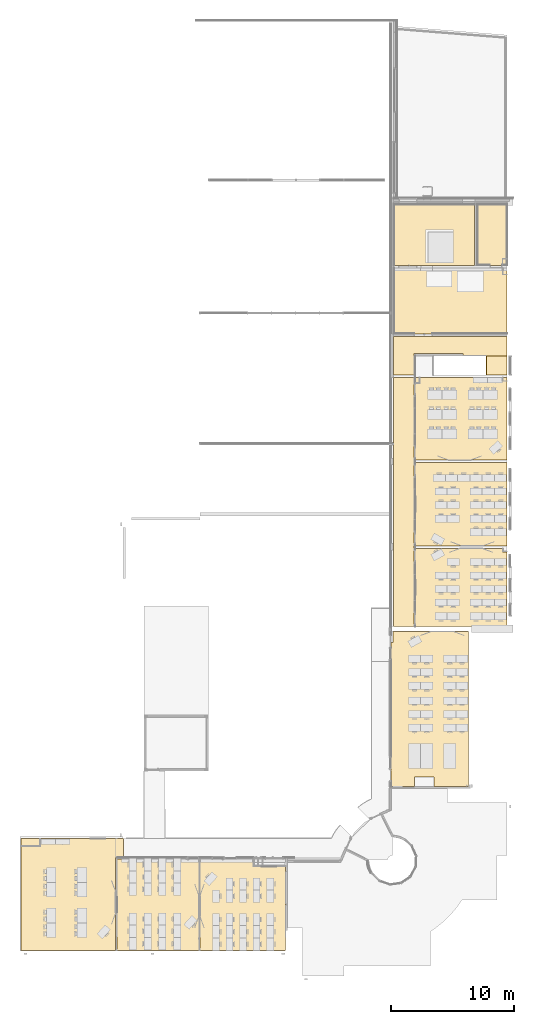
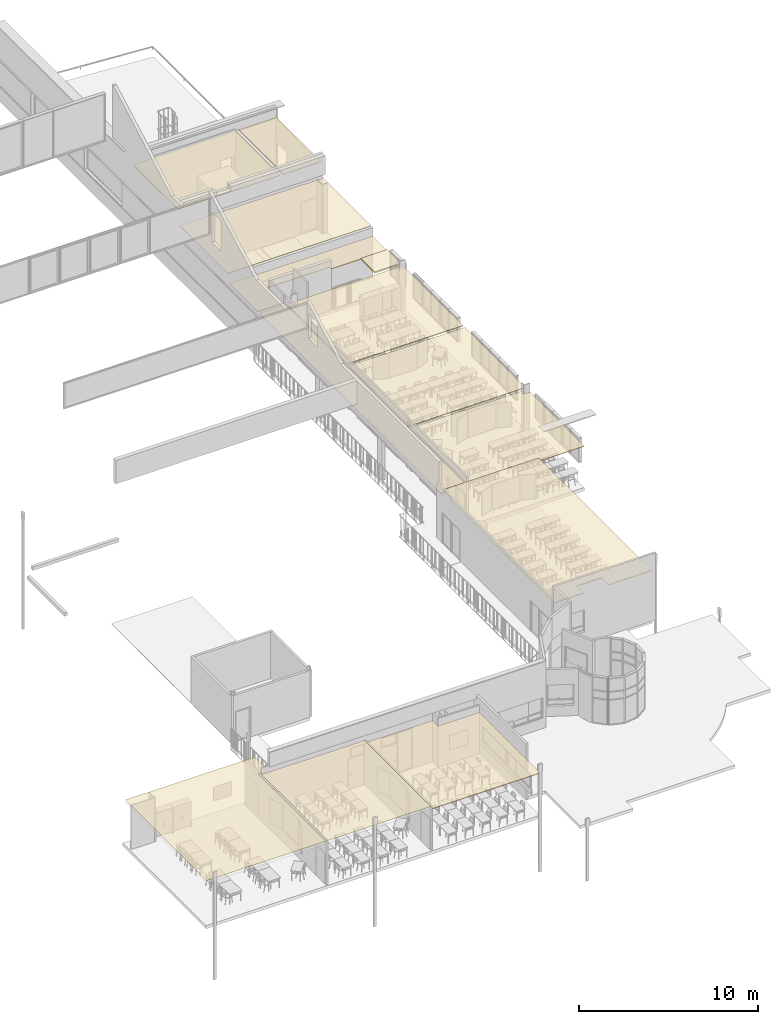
# One storey, part 41 of 44: 13 coverings.
"""IFC2X3 building model written with IfcOpenShell, lengths in centimetres."""

from ifc_helpers import new_model, entity, si_unit, converted_unit, derived_unit, direction, frame, frame_2d, origin, origin_2d_with_axis, place, context, subcontext, project, spatial, polyline, rectangle, outline, extrude, face_set, surface_model, material, layer, layer_set, layer_usage, element, save


model = new_model("IFC2X3")

# Units and contexts
model_context = context("Model", 3, precision=0.001, world=origin(), true_north=direction((6.12303176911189e-17, 1.0)))
body_context = subcontext(model_context, "Body", "Model", "MODEL_VIEW")
ifc_project = project(units=[si_unit("LENGTHUNIT", "METRE", prefix="CENTI"), si_unit("AREAUNIT", "SQUARE_METRE"), si_unit("VOLUMEUNIT", "CUBIC_METRE"), converted_unit("PLANEANGLEUNIT", "DEGREE", entity("IfcRatioMeasure", 0.0174532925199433), si_unit("PLANEANGLEUNIT", "RADIAN"), dimensions=[0, 0, 0, 0, 0, 0, 0]), si_unit("MASSUNIT", "GRAM", prefix="KILO"), si_unit("TIMEUNIT", "SECOND"), si_unit("FREQUENCYUNIT", "HERTZ"), si_unit("THERMODYNAMICTEMPERATUREUNIT", "DEGREE_CELSIUS"), derived_unit("THERMALTRANSMITTANCEUNIT", [(si_unit("MASSUNIT", "GRAM", prefix="KILO"), 1), (si_unit("THERMODYNAMICTEMPERATUREUNIT", "KELVIN"), -1), (si_unit("TIMEUNIT", "SECOND"), -3)]), derived_unit("VOLUMETRICFLOWRATEUNIT", [(si_unit("LENGTHUNIT", "METRE"), 3), (si_unit("TIMEUNIT", "SECOND"), -1)]), si_unit("ELECTRICCURRENTUNIT", "AMPERE"), si_unit("ELECTRICVOLTAGEUNIT", "VOLT"), si_unit("POWERUNIT", "WATT"), si_unit("FORCEUNIT", "NEWTON", prefix="KILO"), si_unit("ILLUMINANCEUNIT", "LUX"), si_unit("LUMINOUSFLUXUNIT", "LUMEN"), si_unit("LUMINOUSINTENSITYUNIT", "CANDELA"), derived_unit("USERDEFINED", [(si_unit("MASSUNIT", "GRAM", prefix="KILO"), -1), (si_unit("LENGTHUNIT", "METRE"), -2), (si_unit("TIMEUNIT", "SECOND"), 3), (si_unit("LUMINOUSFLUXUNIT", "LUMEN"), 1)]), derived_unit("LINEARVELOCITYUNIT", [(si_unit("LENGTHUNIT", "METRE"), 1), (si_unit("TIMEUNIT", "SECOND"), -1)]), si_unit("PRESSUREUNIT", "PASCAL"), derived_unit("USERDEFINED", [(si_unit("LENGTHUNIT", "METRE"), -2), (si_unit("MASSUNIT", "GRAM", prefix="KILO"), 1), (si_unit("TIMEUNIT", "SECOND"), -2)])], contexts=[model_context])

# Site, building, storey
site_placement = place(None, frame((8.62739174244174, -249.285249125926, 0.0)))
site = spatial("IfcSite", under=ifc_project, at=site_placement, Name="Default", CompositionType="ELEMENT")
building_placement = place(site_placement, origin())
building = spatial("IfcBuilding", under=site, at=building_placement, CompositionType="ELEMENT")
storey_placement = place(building_placement, frame((0.0, 0.0, 343.0)))
storey = spatial("IfcBuildingStorey", under=building, at=storey_placement, Name="R+1", CompositionType="ELEMENT", Elevation=343.0)

# Coverings
covering_1_placement = place(storey_placement, frame((22.0, 22.0, 300.0)))
element("IfcCovering", 1, at=covering_1_placement, inside=storey, Name="Plafond de base:Plafond 600 mm x 600 mm", ObjectType="Plafond de base:Plafond 600 mm x 600 mm", PredefinedType="CEILING", context=body_context, shape_type="SurfaceModel", body=[
    surface_model("IfcFaceBasedSurfaceModel", [(769.905471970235, 0.0, 0.0), (769.905471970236, 753.0, 0.0), (834.0, 753.0, 0.0), (834.0, 909.0, 0.0), (0.0, 909.0, 0.0), (0.0, 0.0, 0.0)], [face_set([[[0, 1, 2, 3, 4, 5]]])]),
])
covering_2_placement = place(storey_placement, frame((803.905471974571, 22.0, 300.0)))
element("IfcCovering", 2, at=covering_2_placement, inside=storey, Name="Plafond de base:Plafond 600 mm x 600 mm", ObjectType="Plafond de base:Plafond 600 mm x 600 mm", PredefinedType="CEILING", context=body_context, shape_type="SurfaceModel", body=[
    surface_model("IfcFaceBasedSurfaceModel", [(665.0, 0.0, 0.0), (665.0, 743.0, 0.0), (0.0, 743.0, 0.0), (0.0, 0.0, 0.0)], [face_set([[[0, 1, 2, 3]]])]),
])
ifc_material_1 = material(Name="Maçonnerie - Isolant_MU")
ifc_layer_1 = layer(ifc_material_1, 5.0)
ifc_layer_set_1 = layer_set([ifc_layer_1], Name="Plafond composé:Plafond avec isolation")
ifc_layer_usage_1 = layer_usage(ifc_layer_set_1, "AXIS3", "NEGATIVE", 0.0)
covering_3_placement = place(storey_placement, origin())
element("IfcCovering", 3, at=covering_3_placement, inside=storey, material=ifc_layer_usage_1, Name="Plafond composé:Plafond avec isolation", ObjectType="Plafond composé:Plafond avec isolation", PredefinedType="CEILING", context=body_context, shape_type="SweptSolid", body=[
    extrude(rectangle(XDim=749.00000000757, YDim=677.000000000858, at=frame_2d((0.0, -1.98951966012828e-13), x_axis=(1.0, 0.0))), frame((3604.40482780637, 3651.6851933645, 278.0), z_axis=(0.0, 0.0, 1.0), x_axis=(-1.0, 0.0, 0.0)), (0.0, 0.0, 1.0), 4.99999999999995),
])
ifc_layer_usage_2 = layer_usage(ifc_layer_set_1, "AXIS3", "NEGATIVE", 0.0)
covering_4_placement = place(storey_placement, origin())
element("IfcCovering", 4, at=covering_4_placement, inside=storey, material=ifc_layer_usage_2, Name="Plafond composé:Plafond avec isolation", ObjectType="Plafond composé:Plafond avec isolation", PredefinedType="CEILING", context=body_context, shape_type="SweptSolid", body=[
    extrude(rectangle(XDim=749.00000000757, YDim=672.795014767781, at=frame_2d((6.53699316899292e-13, -4.2632564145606e-13), x_axis=(1.0, 0.0))), frame((3604.40482780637, 4346.58270074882, 278.0), z_axis=(0.0, 0.0, 1.0), x_axis=(-1.0, 0.0, 0.0)), (0.0, 0.0, 1.0), 4.99999999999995),
])
ifc_material_2 = material(Name="Maçonnerie - Isolant")
ifc_layer_2 = layer(ifc_material_2, 3.0)
ifc_material_3 = material(Name="Faux-plafond-Trame 60x 60_MU")
ifc_layer_3 = layer(ifc_material_3, 2.0)
ifc_layer_set_2 = layer_set([ifc_layer_2, ifc_layer_3], Name="Plafond composé:Plafond 120x60")
ifc_layer_usage_3 = layer_usage(ifc_layer_set_2, "AXIS3", "NEGATIVE", 0.0)
covering_5_placement = place(storey_placement, origin())
element("IfcCovering", 5, at=covering_5_placement, inside=storey, material=ifc_layer_usage_3, Name="Plafond composé:Plafond 120x60", ObjectType="Plafond composé:Plafond 120x60", PredefinedType="CEILING", context=body_context, shape_type="SweptSolid", body=[
    extrude(outline(polyline([(-393.15105388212, -761.100157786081), (221.848946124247, -761.100157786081), (221.848946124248, -668.60015778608), (237.768679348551, -668.600157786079), (237.768679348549, 502.900236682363), (46.7667142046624, 502.900236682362), (46.7667142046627, 423.899842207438), (-113.233285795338, 423.899842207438), (-113.233285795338, 502.900236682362), (-393.151053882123, 502.900236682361), (-393.15105388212, -761.100157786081)])), frame((3269.75377392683, 1855.88005028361, 330.0), z_axis=(0.0, 0.0, 1.0), x_axis=(-1.0, 0.0, 0.0)), (0.0, 0.0, 1.0), 5.00000000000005),
])
ifc_layer_usage_4 = layer_usage(ifc_layer_set_1, "AXIS3", "NEGATIVE", 0.0)
covering_6_placement = place(storey_placement, origin())
element("IfcCovering", 6, at=covering_6_placement, inside=storey, material=ifc_layer_usage_4, Name="Plafond composé:Plafond avec isolation", ObjectType="Plafond composé:Plafond avec isolation", PredefinedType="CEILING", context=body_context, shape_type="SweptSolid", body=[
    extrude(outline(polyline([(252.087850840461, -227.857142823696), (282.087850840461, -227.857142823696), (282.087850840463, 482.14285713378), (-356.117134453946, 482.142857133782), (-356.117134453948, 25.1428571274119), (-356.11713445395, -266.857142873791), (252.087850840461, -266.857142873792), (252.087850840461, -227.857142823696)])), frame((3712.04768493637, 3011.09734252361, 278.0), z_axis=(0.0, 0.0, 1.0), x_axis=(0.0, 1.0, 0.0)), (0.0, 0.0, 1.0), 4.99999999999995),
])

# Space
space_1_placement = place(storey_placement, origin())
space_1 = spatial("IfcSpace", under=storey, at=space_1_placement, Name="121", CompositionType="ELEMENT", InteriorOrExteriorSpace="INTERNAL")

# Coverings
ifc_layer_usage_5 = layer_usage(ifc_layer_set_1, "AXIS3", "NEGATIVE", 0.0)
covering_7_placement = place(space_1_placement, origin())
element("IfcCovering", 7, at=covering_7_placement, inside=space_1, material=ifc_layer_usage_5, Name="Plafond composé:Plafond avec isolation", ObjectType="Plafond composé:Plafond avec isolation", PredefinedType="CEILING", context=body_context, shape_type="SweptSolid", body=[
    extrude(outline(polyline([(-432.282886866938, -274.856958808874), (-254.302678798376, -274.856958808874), (248.717113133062, -274.856958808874), (248.717113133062, -8.85695881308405), (310.717113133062, -8.85695881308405), (310.717113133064, 421.142397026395), (-432.282886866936, 421.142397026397), (-432.282886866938, -274.856958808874)])), frame((1900.04786900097, 454.282886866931, 277.0), z_axis=(0.0, 0.0, 1.0), x_axis=(0.0, 1.0, 0.0)), (0.0, 0.0, 1.0), 4.99999999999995),
])
ifc_layer_usage_6 = layer_usage(ifc_layer_set_1, "AXIS3", "NEGATIVE", 0.0)
covering_8_placement = place(storey_placement, origin())
element("IfcCovering", 8, at=covering_8_placement, inside=storey, material=ifc_layer_usage_6, Name="Plafond composé:Plafond avec isolation", ObjectType="Plafond composé:Plafond avec isolation", PredefinedType="CEILING", context=body_context, shape_type="SweptSolid", body=[
    extrude(rectangle(XDim=165.999999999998, YDim=2028.00000006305, at=frame_2d((-2.1316282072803e-13, -2.27373675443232e-13), x_axis=(1.0, 0.0))), frame((3136.90482780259, 3668.98020810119, 278.0), z_axis=(0.0, 0.0, 1.0), x_axis=(-1.0, 0.0, 0.0)), (0.0, 0.0, 1.0), 4.99999999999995),
])
ifc_layer_usage_7 = layer_usage(ifc_layer_set_1, "AXIS3", "NEGATIVE", 0.0)
covering_9_placement = place(storey_placement, origin())
element("IfcCovering", 9, at=covering_9_placement, inside=storey, material=ifc_layer_usage_7, Name="Plafond composé:Plafond avec isolation", ObjectType="Plafond composé:Plafond avec isolation", PredefinedType="CEILING", context=body_context, shape_type="SweptSolid", body=[
    extrude(rectangle(XDim=499.999999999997, YDim=245.000000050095, at=origin_2d_with_axis()), frame((3856.40482778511, 5844.9802081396, 435.0), z_axis=(0.0, 0.0, 1.0), x_axis=(0.0, -1.0, 0.0)), (0.0, 0.0, 1.0), 5.00000000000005),
])
ifc_layer_usage_8 = layer_usage(ifc_layer_set_1, "AXIS3", "NEGATIVE", 0.0)
covering_10_placement = place(storey_placement, origin())
element("IfcCovering", 10, at=covering_10_placement, inside=storey, material=ifc_layer_usage_8, Name="Plafond composé:Plafond avec isolation", ObjectType="Plafond composé:Plafond avec isolation", PredefinedType="CEILING", context=body_context, shape_type="SweptSolid", body=[
    extrude(rectangle(XDim=659.999999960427, YDim=499.999999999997, at=frame_2d((-108.333333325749, 1.02318153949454e-12), x_axis=(1.0, 0.0))), frame((3275.5714944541, 5844.9802081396, 435.0), z_axis=(0.0, 0.0, 1.0), x_axis=(-1.0, 0.0, 0.0)), (0.0, 0.0, 1.0), 4.99999999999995),
])
ifc_layer_usage_9 = layer_usage(ifc_layer_set_1, "AXIS3", "NEGATIVE", 0.0)
covering_11_placement = place(storey_placement, origin())
element("IfcCovering", 11, at=covering_11_placement, inside=storey, material=ifc_layer_usage_9, Name="Plafond composé:Plafond avec isolation", ObjectType="Plafond composé:Plafond avec isolation", PredefinedType="CEILING", context=body_context, shape_type="SweptSolid", body=[
    extrude(rectangle(XDim=536.999999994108, YDim=925.000000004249, at=frame_2d((4.2632564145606e-13, 1.98951966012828e-13), x_axis=(1.0, 0.0))), frame((3516.40482780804, 5306.48020814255, 335.0), z_axis=(0.0, 0.0, 1.0), x_axis=(0.0, -1.0, 0.0)), (0.0, 0.0, 1.0), 4.99999999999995),
])

# Space
space_2_placement = place(storey_placement, origin())
space_2 = spatial("IfcSpace", under=storey, at=space_2_placement, Name="132", CompositionType="ELEMENT", InteriorOrExteriorSpace="INTERNAL")

# Coverings
ifc_layer_usage_10 = layer_usage(ifc_layer_set_2, "AXIS3", "NEGATIVE", 0.0)
covering_12_placement = place(space_2_placement, origin())
element("IfcCovering", 12, at=covering_12_placement, inside=space_2, material=ifc_layer_usage_10, Name="Plafond composé:Plafond 120x60", ObjectType="Plafond composé:Plafond 120x60", PredefinedType="CEILING", context=body_context, shape_type="SweptSolid", body=[
    extrude(outline(polyline([(38.0363636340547, -288.000015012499), (-132.763636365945, -288.0000150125), (-132.763636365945, -453.000003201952), (182.236363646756, -453.000003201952), (182.236363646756, 471.999996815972), (-132.763636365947, 471.999996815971), (-132.763636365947, 301.000043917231), (22.236363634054, 301.000043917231), (22.236363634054, 111.999984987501), (42.0363636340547, 111.999984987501), (42.0363636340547, -288.000015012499), (38.0363636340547, -288.000015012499)])), frame((3506.90483099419, 4835.74384449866, 277.0), z_axis=(0.0, 0.0, -1.0), x_axis=(0.0, 1.0, 0.0)), (0.0, 0.0, -1.0), 4.99999999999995),
])
ifc_material_4 = material(Name="Panneau de fibres à densité moyenne MDF")
ifc_layer_4 = layer(ifc_material_4, 10.0)
ifc_layer_set_3 = layer_set([ifc_layer_4], Name="Plafond composé:Pafond-fibre-de-bois")
ifc_layer_usage_11 = layer_usage(ifc_layer_set_3, "AXIS3", "NEGATIVE", 0.0)
covering_13_placement = place(space_2_placement, origin())
element("IfcCovering", 13, at=covering_13_placement, inside=space_2, material=ifc_layer_usage_11, Name="Plafond composé:Pafond-fibre-de-bois", ObjectType="Plafond composé:Pafond-fibre-de-bois", PredefinedType="CEILING", context=body_context, shape_type="SweptSolid", body=[
    extrude(rectangle(XDim=170.000000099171, YDim=155.000000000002, at=frame_2d((2.20268248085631e-13, 4.33431068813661e-13), x_axis=(1.0, 0.0))), frame((3893.90482776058, 4780.48020813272, 277.0)), (0.0, 0.0, 1.0), 10.0),
])

save(model, "model.ifc")
